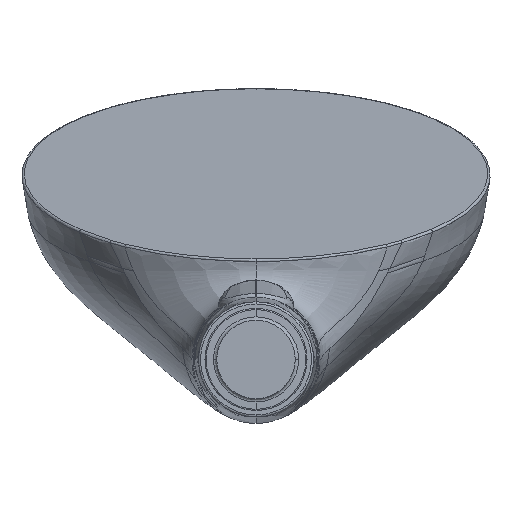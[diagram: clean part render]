
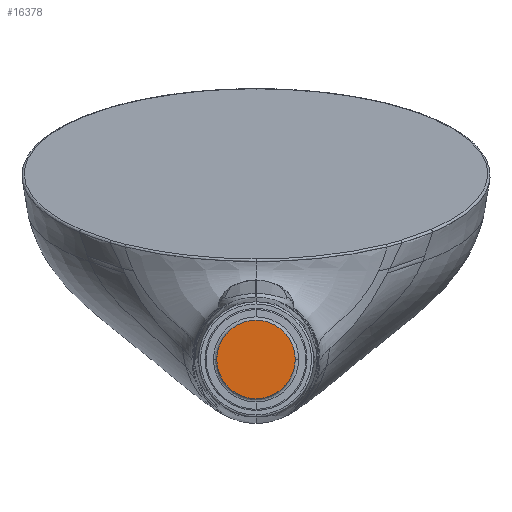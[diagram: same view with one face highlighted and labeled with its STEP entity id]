
A CAD part, front view. The second image highlights one B-rep face of the part: STEP entity #16378.
In plain terms, the highlighted planar face has unit normal (0, -1, 0).
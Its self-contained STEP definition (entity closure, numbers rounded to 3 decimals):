
#742 = CIRCLE ( 'NONE', #3746, 9.2 ) ;
#1336 = VERTEX_POINT ( 'NONE', #14105 ) ;
#2431 = DIRECTION ( 'NONE',  ( 0., -1., 0. ) ) ;
#2662 = DIRECTION ( 'NONE',  ( 0., -1., 0. ) ) ;
#2700 = DIRECTION ( 'NONE',  ( 0., 0., -1. ) ) ;
#3499 = CARTESIAN_POINT ( 'NONE',  ( 0., -10.5, -9.2 ) ) ;
#3746 = AXIS2_PLACEMENT_3D ( 'NONE', #5422, #2662, #4102 ) ;
#4018 = EDGE_CURVE ( 'NONE', #14775, #1336, #5843, .T. ) ;
#4102 = DIRECTION ( 'NONE',  ( 0., 0., -1. ) ) ;
#5158 = AXIS2_PLACEMENT_3D ( 'NONE', #11617, #2431, #6357 ) ;
#5280 = CARTESIAN_POINT ( 'NONE',  ( 0., -10.5, 0. ) ) ;
#5422 = CARTESIAN_POINT ( 'NONE',  ( 0., -10.5, 0. ) ) ;
#5843 = CIRCLE ( 'NONE', #5158, 9.2 ) ;
#6357 = DIRECTION ( 'NONE',  ( 0., 0., -1. ) ) ;
#6408 = AXIS2_PLACEMENT_3D ( 'NONE', #5280, #14553, #2700 ) ;
#7201 = ORIENTED_EDGE ( 'NONE', *, *, #15999, .T. ) ;
#8080 = EDGE_LOOP ( 'NONE', ( #7201, #17192 ) ) ;
#9061 = PLANE ( 'NONE',  #6408 ) ;
#11617 = CARTESIAN_POINT ( 'NONE',  ( 0., -10.5, 0. ) ) ;
#14105 = CARTESIAN_POINT ( 'NONE',  ( 0., -10.5, 9.2 ) ) ;
#14553 = DIRECTION ( 'NONE',  ( 0., -1., 0. ) ) ;
#14775 = VERTEX_POINT ( 'NONE', #3499 ) ;
#15999 = EDGE_CURVE ( 'NONE', #1336, #14775, #742, .T. ) ;
#16378 = ADVANCED_FACE ( 'NONE', ( #16485 ), #9061, .T. ) ;
#16485 = FACE_OUTER_BOUND ( 'NONE', #8080, .T. ) ;
#17192 = ORIENTED_EDGE ( 'NONE', *, *, #4018, .T. ) ;
